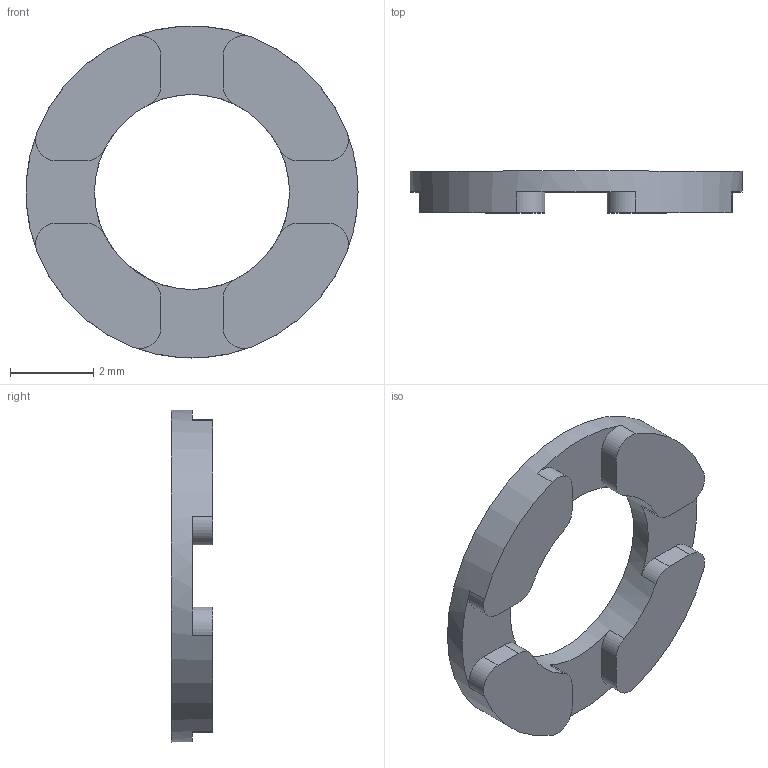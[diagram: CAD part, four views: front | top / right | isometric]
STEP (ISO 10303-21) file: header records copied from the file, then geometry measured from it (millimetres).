
FILE_DESCRIPTION(/* description */ ('STEP AP242','CAx-IF Rec.Pracs.---Representation and Presentation of Product Manufacturing Information (PMI)---4.0---2014-10-13','CAx-IF Rec.Pracs.---3D Tessellated Geometry---0.4---2014-09-14','2;1'),/* implementation_level */ '2;1');
FILE_NAME(/* name */ '6851dbf17c46943849cdfb1c',/* time_stamp */ '2025-06-17T21:19:45Z',/* author */ (''),/* organization */ (''),/* preprocessor_version */ 'ST-DEVELOPER v20',/* originating_system */ 'ONSHAPE BY PTC INC, 1.199',/* authorisation */ ' ');
FILE_SCHEMA (('AP242_MANAGED_MODEL_BASED_3D_ENGINEERING_MIM_LF { 1 0 10303 442 1 1 4 }'));
Length unit declared in the file: metre
Products named in the file (1): 03-OMI-TOUCHPIN_19_2
Bounding box: 8 x 1 x 8 mm (x, y, z)
Volume: 27.4 mm3; surface area: 104.6 mm2
Topology: 1 solids, 1 shells, 35 faces, 102 edges, 68 vertices
Faces by surface type: cylinder 18, plane 17
Full cylindrical faces by diameter (mm): 4.7 x1, 8 x1
Entity records: 1184 total; most frequent: DIRECTION 220, CARTESIAN_POINT 200, ORIENTED_EDGE 196, EDGE_CURVE 98, AXIS2_PLACEMENT_3D 86, VERTEX_POINT 66, CIRCLE 50, LINE 48
